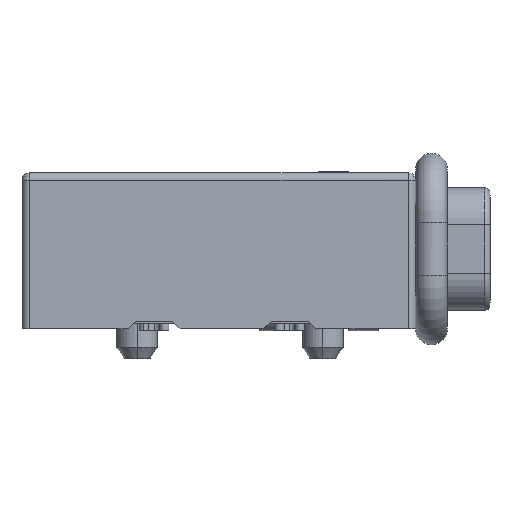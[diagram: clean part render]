
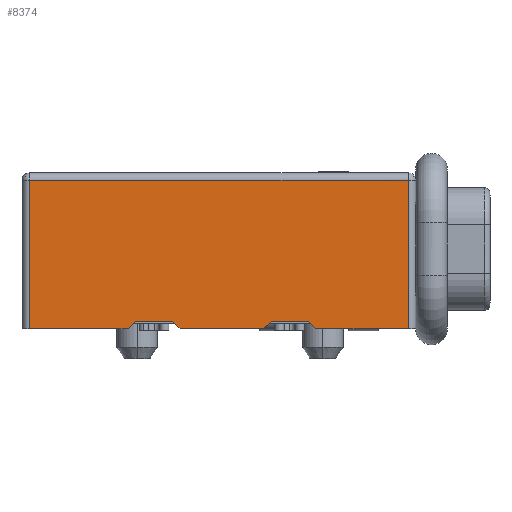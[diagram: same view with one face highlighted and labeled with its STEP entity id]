
A CAD part, left-side view. The second image highlights one B-rep face of the part: STEP entity #8374.
In plain terms, the highlighted planar face has unit normal (-1, 0, 0).
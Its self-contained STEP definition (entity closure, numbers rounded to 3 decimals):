
#7711=CARTESIAN_POINT('',(-2.408,7.552,13.45));
#7712=VERTEX_POINT('',#7711);
#7720=CARTESIAN_POINT('',(-2.408,-2.648,13.45));
#7721=VERTEX_POINT('',#7720);
#7722=CARTESIAN_POINT('',(-2.408,-2.648,13.45));
#7723=DIRECTION('',(0.0,1.0,0.0));
#7724=VECTOR('',#7723,1.0);
#7725=LINE('',#7722,#7724);
#7726=EDGE_CURVE('no 9793',#7721,#7712,#7725,.T.);
#8280=CARTESIAN_POINT('',(-2.408,3.497,9.45));
#8281=VERTEX_POINT('',#8280);
#8282=CARTESIAN_POINT('',(-2.408,3.697,9.65));
#8283=VERTEX_POINT('',#8282);
#8284=CARTESIAN_POINT('',(-2.408,3.497,9.45));
#8285=DIRECTION('',(0.0,0.707,0.707));
#8286=VECTOR('',#8285,1.0);
#8287=LINE('',#8284,#8286);
#8288=EDGE_CURVE('no 15547',#8281,#8283,#8287,.T.);
#8289=ORIENTED_EDGE('no 4046',*,*,#8288,.F.);
#8290=CARTESIAN_POINT('',(-2.408,1.242,9.45));
#8291=VERTEX_POINT('',#8290);
#8292=CARTESIAN_POINT('',(-2.408,3.497,9.45));
#8293=DIRECTION('',(0.0,-1.0,0.));
#8294=VECTOR('',#8293,1.0);
#8295=LINE('',#8292,#8294);
#8296=EDGE_CURVE('no 14472',#8281,#8291,#8295,.T.);
#8297=ORIENTED_EDGE('no 4032',*,*,#8296,.T.);
#8298=CARTESIAN_POINT('',(-2.408,1.042,9.65));
#8299=VERTEX_POINT('',#8298);
#8300=CARTESIAN_POINT('',(-2.408,1.042,9.65));
#8301=DIRECTION('',(0.0,0.707,-0.707));
#8302=VECTOR('',#8301,1.0);
#8303=LINE('',#8300,#8302);
#8304=EDGE_CURVE('no 3938',#8299,#8291,#8303,.T.);
#8305=ORIENTED_EDGE('no 18136',*,*,#8304,.F.);
#8306=CARTESIAN_POINT('',(-2.408,0.042,9.65));
#8307=VERTEX_POINT('',#8306);
#8308=CARTESIAN_POINT('',(-2.408,1.042,9.65));
#8309=DIRECTION('',(0.0,-1.0,0.0));
#8310=VECTOR('',#8309,1.0);
#8311=LINE('',#8308,#8310);
#8312=EDGE_CURVE('no 9010',#8299,#8307,#8311,.T.);
#8313=ORIENTED_EDGE('no 4203',*,*,#8312,.T.);
#8314=CARTESIAN_POINT('',(-2.408,-0.158,9.45));
#8315=VERTEX_POINT('',#8314);
#8316=CARTESIAN_POINT('',(-2.408,-0.158,9.45));
#8317=DIRECTION('',(0.0,0.707,0.707));
#8318=VECTOR('',#8317,1.0);
#8319=LINE('',#8316,#8318);
#8320=EDGE_CURVE('no 7791',#8315,#8307,#8319,.T.);
#8321=ORIENTED_EDGE('no 17927',*,*,#8320,.F.);
#8322=CARTESIAN_POINT('',(-2.408,-2.648,9.45));
#8323=VERTEX_POINT('',#8322);
#8324=CARTESIAN_POINT('',(-2.408,-0.158,9.45));
#8325=DIRECTION('',(0.0,-1.0,-0.0));
#8326=VECTOR('',#8325,1.0);
#8327=LINE('',#8324,#8326);
#8328=EDGE_CURVE('no 745',#8315,#8323,#8327,.T.);
#8329=ORIENTED_EDGE('no 6889',*,*,#8328,.T.);
#8330=CARTESIAN_POINT('',(-2.408,-2.648,9.45));
#8331=DIRECTION('',(0.0,-0.0,1.0));
#8332=VECTOR('',#8331,1.0);
#8333=LINE('',#8330,#8332);
#8334=EDGE_CURVE('no 15704',#8323,#7721,#8333,.T.);
#8335=ORIENTED_EDGE('no 3427',*,*,#8334,.T.);
#8336=ORIENTED_EDGE('no 5691',*,*,#7726,.T.);
#8337=CARTESIAN_POINT('',(-2.408,7.552,9.45));
#8338=VERTEX_POINT('',#8337);
#8339=CARTESIAN_POINT('',(-2.408,7.552,9.45));
#8340=DIRECTION('',(0.0,0.0,1.0));
#8341=VECTOR('',#8340,1.0);
#8342=LINE('',#8339,#8341);
#8343=EDGE_CURVE('no 2889',#8338,#7712,#8342,.T.);
#8344=ORIENTED_EDGE('no 5325',*,*,#8343,.F.);
#8345=CARTESIAN_POINT('',(-2.408,4.897,9.45));
#8346=VERTEX_POINT('',#8345);
#8347=CARTESIAN_POINT('',(-2.408,7.552,9.45));
#8348=DIRECTION('',(0.0,-1.0,0.0));
#8349=VECTOR('',#8348,1.0);
#8350=LINE('',#8347,#8349);
#8351=EDGE_CURVE('no 18219',#8338,#8346,#8350,.T.);
#8352=ORIENTED_EDGE('no 1466',*,*,#8351,.T.);
#8353=CARTESIAN_POINT('',(-2.408,4.697,9.65));
#8354=VERTEX_POINT('',#8353);
#8355=CARTESIAN_POINT('',(-2.408,4.697,9.65));
#8356=DIRECTION('',(0.0,0.707,-0.707));
#8357=VECTOR('',#8356,1.0);
#8358=LINE('',#8355,#8357);
#8359=EDGE_CURVE('no 17845',#8354,#8346,#8358,.T.);
#8360=ORIENTED_EDGE('no 805',*,*,#8359,.F.);
#8361=CARTESIAN_POINT('',(-2.408,4.697,9.65));
#8362=DIRECTION('',(0.0,-1.0,0.));
#8363=VECTOR('',#8362,1.0);
#8364=LINE('',#8361,#8363);
#8365=EDGE_CURVE('no 10216',#8354,#8283,#8364,.T.);
#8366=ORIENTED_EDGE('no 47',*,*,#8365,.T.);
#8367=EDGE_LOOP('',(
    #8289,#8297,#8305,#8313,#8321,#8329,#8335,#8336,#8344,#8352,
    #8360,#8366));
#8368=FACE_OUTER_BOUND('',#8367,.T.);
#8369=CARTESIAN_POINT('',(-2.408,2.452,11.45));
#8370=DIRECTION('',(1.0,0.0,0.0));
#8371=DIRECTION('',(0.0,1.0,0.0));
#8372=AXIS2_PLACEMENT_3D('',#8369,#8370,#8371);
#8373=PLANE('',#8372);
#8374=ADVANCED_FACE('no 12019',(#8368),#8373,.F.);
